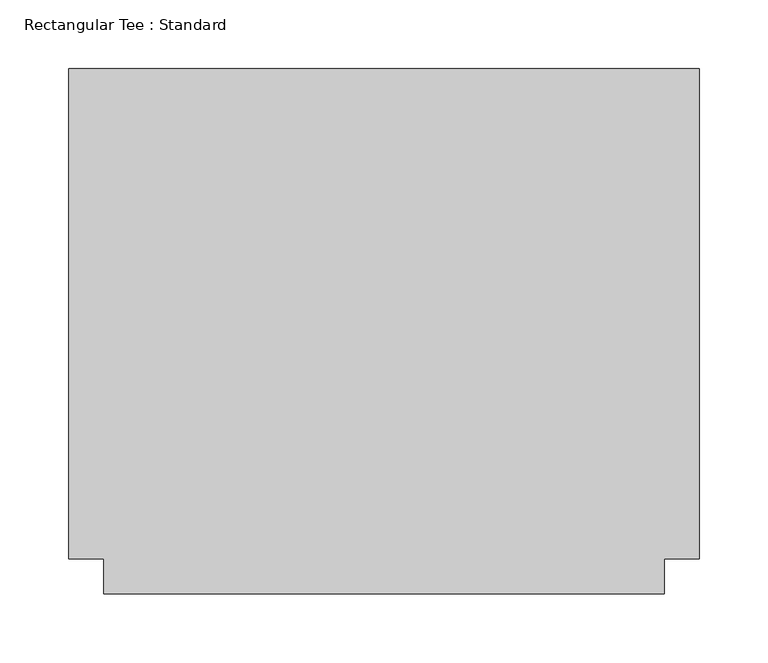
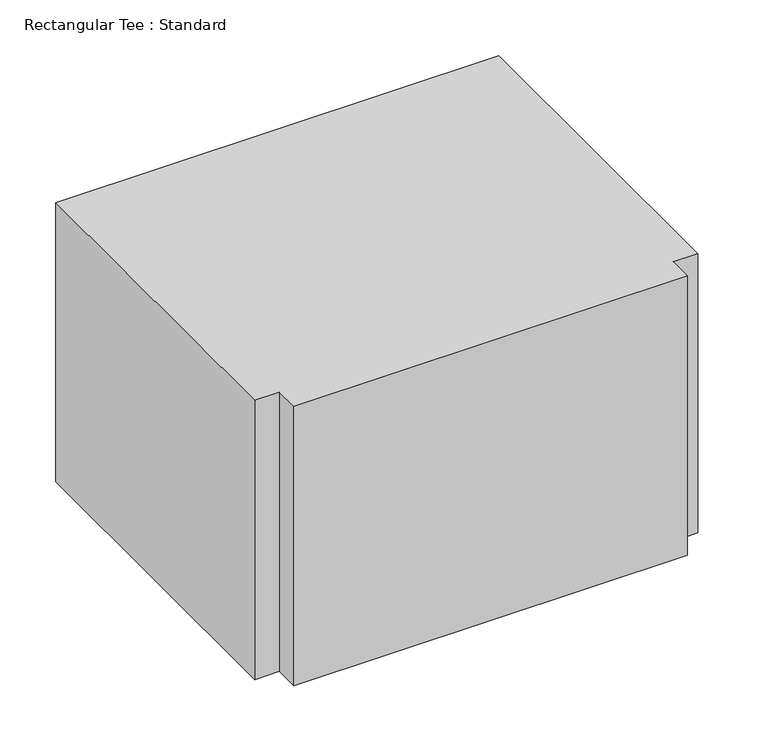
"""IFC4 building model written with IfcOpenShell, lengths in millimetres: duct fitting geometry, Rectangular Tee : Standard."""

from ifc_helpers import new_model, si_unit, frame, origin, place, context, project, spatial, polyline, outline, extrude, source, transform, mapped, element, save


def rectangular_tee_standard_a3fcfff0(model_context):
    return source(origin(), model_context, "Body", "SweptSolid", [
        extrude(outline(polyline([(-228.6, -177.8), (-228.6, 177.8), (228.6, 177.8), (228.6, -177.8), (203.2, -177.8), (203.2, -203.2), (-203.2, -203.2), (-203.2, -177.8), (-228.6, -177.8)])), frame((0.0, 0.0, -152.4), z_axis=(0.0, 0.0, 1.0), x_axis=(1.0, 0.0, 0.0)), (0.0, 0.0, 1.0), 304.8),
    ])


if __name__ == "__main__":
    model = new_model("IFC4")
    model_context = context("Model", 3, world=origin())
    ifc_project = project(units=[si_unit("LENGTHUNIT", "METRE", prefix="MILLI")], contexts=[model_context])
    site = spatial("IfcSite", under=ifc_project)
    building = spatial("IfcBuilding", under=site)
    placement = place(None, origin())
    rectangular_tee_standard_shape = rectangular_tee_standard_a3fcfff0(model_context)
    element("IfcDuctFitting", 1, ObjectType="Rectangular Tee : Standard", at=placement, inside=building, context=model_context, shape_type="MappedRepresentation", body=[
        mapped(rectangular_tee_standard_shape, transform((0.0, 0.0, 0.0), x_axis=(1.0, 0.0, 0.0), y_axis=(0.0, 1.0, 0.0), z_axis=(0.0, 0.0, 1.0))),
    ])
    save(model, "model.ifc")
